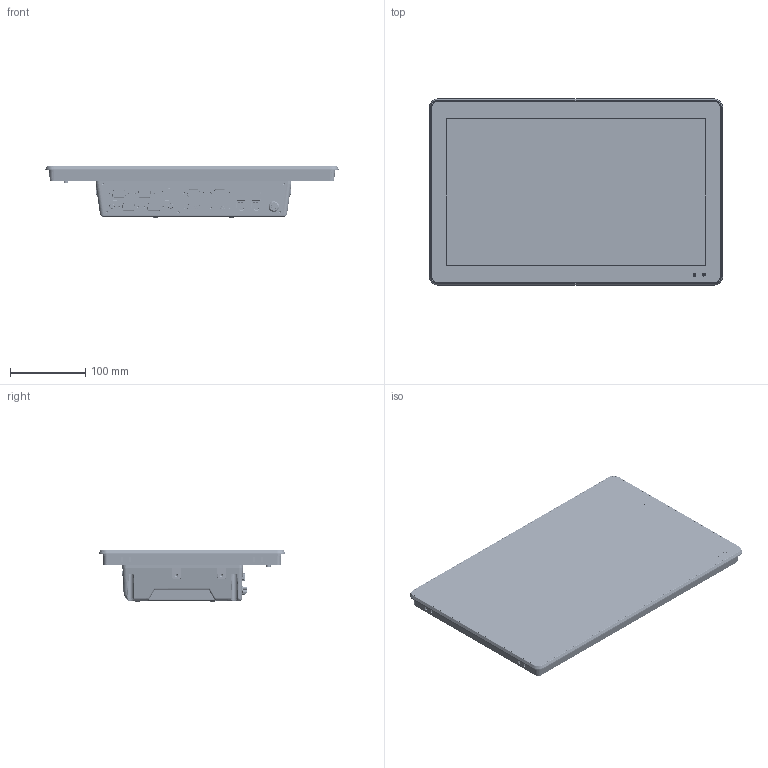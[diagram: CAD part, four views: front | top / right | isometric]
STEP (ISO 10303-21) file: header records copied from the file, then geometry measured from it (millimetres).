
FILE_DESCRIPTION (( 'STEP AP214' ), '1' );
FILE_NAME ('QY-P8156 蚾饜极俋楷02.STEP', '2023-04-15T06:03:34', ( '' ), ( '' ), 'SwSTEP 2.0', 'SolidWorks 2018', '' );
FILE_SCHEMA (( 'AUTOMOTIVE_DESIGN' ));
Length unit declared in the file: millimetre
Products named in the file (12): QY-P8156 电容触摸屏; QY-P8156 醱啣耀撿俋楷03; QY-P8156 蚾饜极俋楷02; IO結啣; QY-P8000-10210蚾饜极02; 后壳模具20220913外发件组件01; WIFI黑芛; 毞盄結啣; 12mm祥凄詩羲壽情遴; QY-P8156嘐隅啣01; 綴褲耀撿20220913俋楷璃01; 8000炵蹈4G縐羞裔
Assembly tree (12 placements, depth 3):
  QY-P8156 蚾饜极俋楷02
    QY-P8156 醱啣耀撿俋楷03
    QY-P8156 电容触摸屏
    QY-P8156嘐隅啣01
    后壳模具20220913外发件组件01
      綴褲耀撿20220913俋楷璃01
      IO結啣
      QY-P8000-10210蚾饜极02
      12mm祥凄詩羲壽情遴
      毞盄結啣
      WIFI黑芛  x2
      8000炵蹈4G縐羞裔
Bounding box: 390 x 247.6 x 68 mm (x, y, z)
Volume: 3351400.5 mm3; surface area: 847611.8 mm2
Topology: 37 solids, 37 shells, 6595 faces, 16556 edges, 10360 vertices
Faces by surface type: plane 3173, cylinder 1935, bspline 878, cone 374, torus 159, sphere 76
Entity records: 282940 total; most frequent: CARTESIAN_POINT 89727, ORIENTED_EDGE 32836, DIRECTION 28644, EDGE_CURVE 16418, VECTOR 10524, LINE 10524, VERTEX_POINT 10348, AXIS2_PLACEMENT_3D 9060
